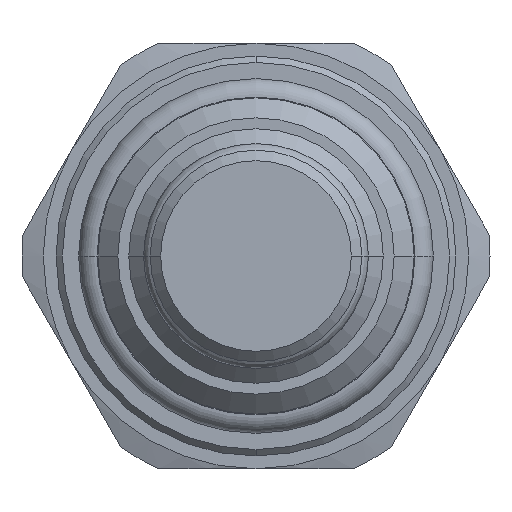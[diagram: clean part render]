
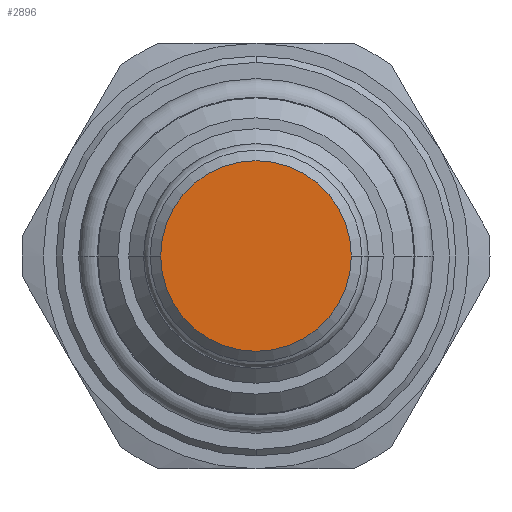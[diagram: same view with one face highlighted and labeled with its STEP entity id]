
A CAD part, front view. The second image highlights one B-rep face of the part: STEP entity #2896.
In plain terms, the highlighted planar face has unit normal (0, -1, 0).
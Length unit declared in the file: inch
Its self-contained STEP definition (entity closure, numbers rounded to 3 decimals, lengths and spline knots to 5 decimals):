
#990=CARTESIAN_POINT('',(0.,-1.091,0.));
#991=DIRECTION('',(0.,-1.,0.));
#992=DIRECTION('',(-1.,0.,0.));
#993=AXIS2_PLACEMENT_3D('',#990,#991,#992);
#1004=CARTESIAN_POINT('',(0.,-1.091,0.));
#1005=DIRECTION('',(0.,-1.,0.));
#1006=DIRECTION('',(1.,0.,0.));
#1007=AXIS2_PLACEMENT_3D('',#1004,#1005,#1006);
#1708=CARTESIAN_POINT('',(-0.224,-1.091,0.));
#1709=CARTESIAN_POINT('',(0.224,-1.091,0.));
#1710=VERTEX_POINT('',#1708);
#1711=VERTEX_POINT('',#1709);
#2887=CARTESIAN_POINT('',(0.,-1.091,0.));
#2888=DIRECTION('',(0.,-1.,0.));
#2889=DIRECTION('',(-1.,0.,0.));
#2890=AXIS2_PLACEMENT_3D('',#2887,#2888,#2889);
#2891=PLANE('',#2890);
#2892=ORIENTED_EDGE('',*,*,#2867,.F.);
#2893=ORIENTED_EDGE('',*,*,#2881,.F.);
#2894=EDGE_LOOP('',(#2892,#2893));
#2895=FACE_OUTER_BOUND('',#2894,.F.);
#2896=ADVANCED_FACE('',(#2895),#2891,.T.);
#994=CIRCLE('',#993,0.224);
#1008=CIRCLE('',#1007,0.224);
#2867=EDGE_CURVE('',#1710,#1711,#994,.T.);
#2881=EDGE_CURVE('',#1711,#1710,#1008,.T.);
